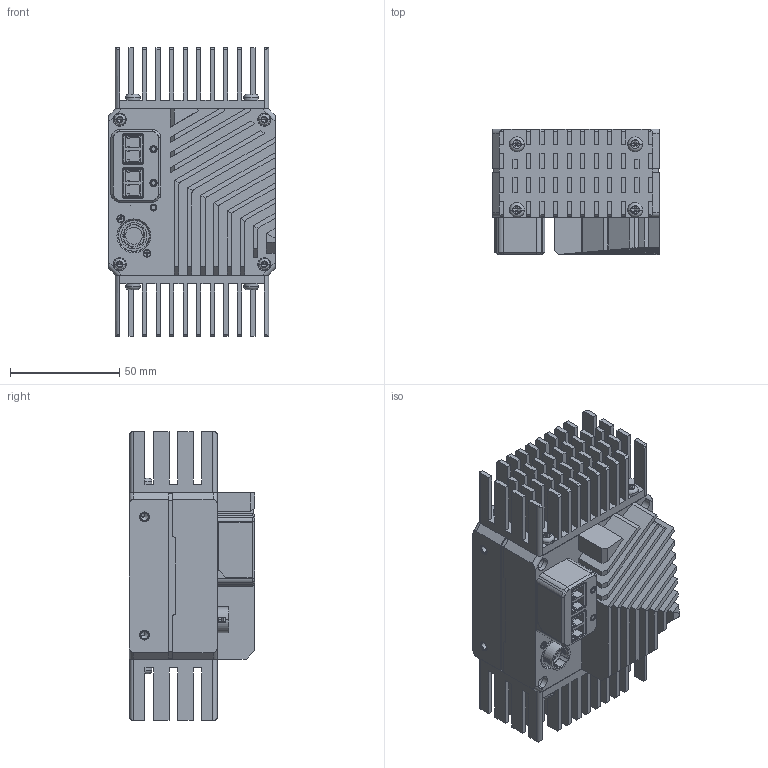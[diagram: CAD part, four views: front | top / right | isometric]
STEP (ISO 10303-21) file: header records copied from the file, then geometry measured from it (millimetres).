
FILE_DESCRIPTION((''),'2;1');
FILE_NAME('8K-000_ASM','2022-11-28T19:44:31',('mafangning'),(''),'CREO PARAMETRIC BY PTC INC, 2020044','CREO PARAMETRIC BY PTC INC, 2020044','');
FILE_SCHEMA(('CONFIG_CONTROL_DESIGN'));
Products named in the file (20): DA-14-004248; 00; _10_5; 0_5; __1_20001_5; PIN_10-_1_20_5; _1__1_200_8; 10G_SR_MINI_00_ASM_5_ASM; 10G_SR_MINI__V2_0000_ASM_6_ASM; PCB-MV-20328_ASM; 8K00; SC-PM3X17T10L5-BNI-SUS_2; D-01-35-26-0096; SC-KM2X4B_2; DE-14-015987; MV-20328-7-202207271050_ASM_ASM; MV-23320REV10-2-202208051630_AS; D-01-35-26-0837; BREP_8; 8K-000_ASM
Assembly tree (35 placements, depth 5):
  8K-000_ASM
    DA-14-004248
    00
    PCB-MV-20328_ASM
      10G_SR_MINI__V2_0000_ASM_6_ASM  x2
        10G_SR_MINI_00_ASM_5_ASM
          _10_5
          0_5
          __1_20001_5
          PIN_10-_1_20_5  x3
          _1__1_200_8
    8K00
    SC-PM3X17T10L5-BNI-SUS_2  x4
    D-01-35-26-0096  x2
    SC-KM2X4B_2  x2
    DE-14-015987  x2
    MV-20328-7-202207271050_ASM_ASM
    MV-23320REV10-2-202208051630_AS
    D-01-35-26-0837
    BREP_8  x8
Bounding box: 76 x 57.4 x 132 mm (x, y, z)
Volume: 271104.3 mm3; surface area: 138906.1 mm2
Topology: 44 solids, 808 shells, 6357 faces, 18934 edges, 13377 vertices
Faces by surface type: plane 4501, cylinder 1489, cone 223, torus 68, bspline 32, extrusion 24, sphere 20
Entity records: 159075 total; most frequent: CARTESIAN_POINT 32611, DIRECTION 25481, ORIENTED_EDGE 23344, EDGE_CURVE 14236, VECTOR 11385, LINE 11379, VERTEX_POINT 10368, AXIS2_PLACEMENT_3D 7048
